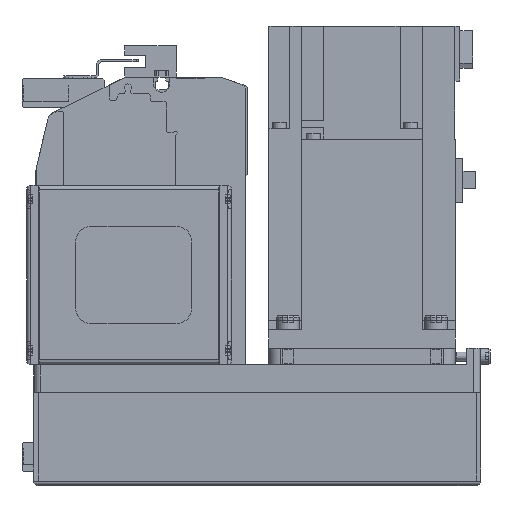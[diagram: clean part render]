
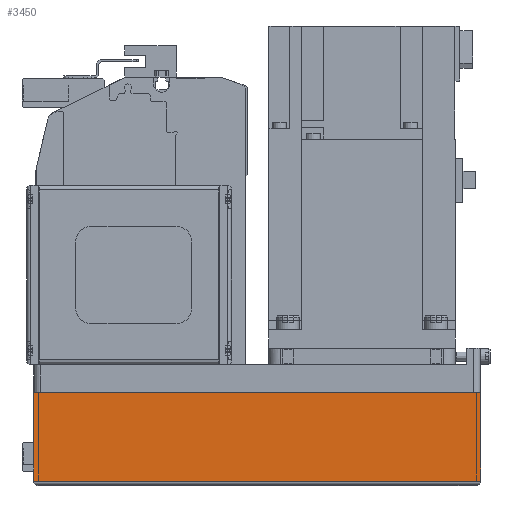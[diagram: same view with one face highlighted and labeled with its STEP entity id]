
A CAD part, left-side view. The second image highlights one B-rep face of the part: STEP entity #3450.
In plain terms, the highlighted planar face has unit normal (-1, 0, 0) as drawn and (0, 1, 0) by its records, which use the part's own axes.
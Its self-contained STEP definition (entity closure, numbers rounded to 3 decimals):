
#3450 = ADVANCED_FACE( '', ( #7229 ), #7230, .T. );
#7229 = FACE_OUTER_BOUND( '', #11033, .T. );
#7230 = PLANE( '', #11034 );
#11033 = EDGE_LOOP( '', ( #20744, #20745, #20746, #20747 ) );
#11034 = AXIS2_PLACEMENT_3D( '', #20748, #20749, #20750 );
#20744 = ORIENTED_EDGE( '', *, *, #24819, .F. );
#20745 = ORIENTED_EDGE( '', *, *, #21529, .F. );
#20746 = ORIENTED_EDGE( '', *, *, #23065, .T. );
#20747 = ORIENTED_EDGE( '', *, *, #25003, .T. );
#20748 = CARTESIAN_POINT( '', ( -192., 40., -50. ) );
#20749 = DIRECTION( '', ( 0., 1., 0. ) );
#20750 = DIRECTION( '', ( 0., 0., 1. ) );
#21529 = EDGE_CURVE( '', #25104, #25652, #25653, .T. );
#23065 = EDGE_CURVE( '', #25104, #28224, #28226, .T. );
#24819 = EDGE_CURVE( '', #25652, #30564, #30565, .T. );
#25003 = EDGE_CURVE( '', #28224, #30564, #30758, .T. );
#25104 = VERTEX_POINT( '', #30874 );
#25652 = VERTEX_POINT( '', #31612 );
#25653 = LINE( '', #31613, #31614 );
#28224 = VERTEX_POINT( '', #35652 );
#28226 = LINE( '', #35655, #35656 );
#30564 = VERTEX_POINT( '', #39551 );
#30565 = LINE( '', #39552, #39553 );
#30758 = LINE( '', #39839, #39840 );
#30874 = CARTESIAN_POINT( '', ( -192., 40., -50. ) );
#31612 = CARTESIAN_POINT( '', ( 0., 40., -50. ) );
#31613 = CARTESIAN_POINT( '', ( -192., 40., -50. ) );
#31614 = VECTOR( '', #40370, 1000. );
#35652 = CARTESIAN_POINT( '', ( -192., 40., -12.1 ) );
#35655 = CARTESIAN_POINT( '', ( -192., 40., -50. ) );
#35656 = VECTOR( '', #42416, 1000. );
#39551 = CARTESIAN_POINT( '', ( 0., 40., -12.1 ) );
#39552 = CARTESIAN_POINT( '', ( 0., 40., -50. ) );
#39553 = VECTOR( '', #44217, 1000. );
#39839 = CARTESIAN_POINT( '', ( -192., 40., -12.1 ) );
#39840 = VECTOR( '', #44304, 1000. );
#40370 = DIRECTION( '', ( 1., 0., 0. ) );
#42416 = DIRECTION( '', ( 0., 0., 1. ) );
#44217 = DIRECTION( '', ( 0., 0., 1. ) );
#44304 = DIRECTION( '', ( 1., 0., 0. ) );
